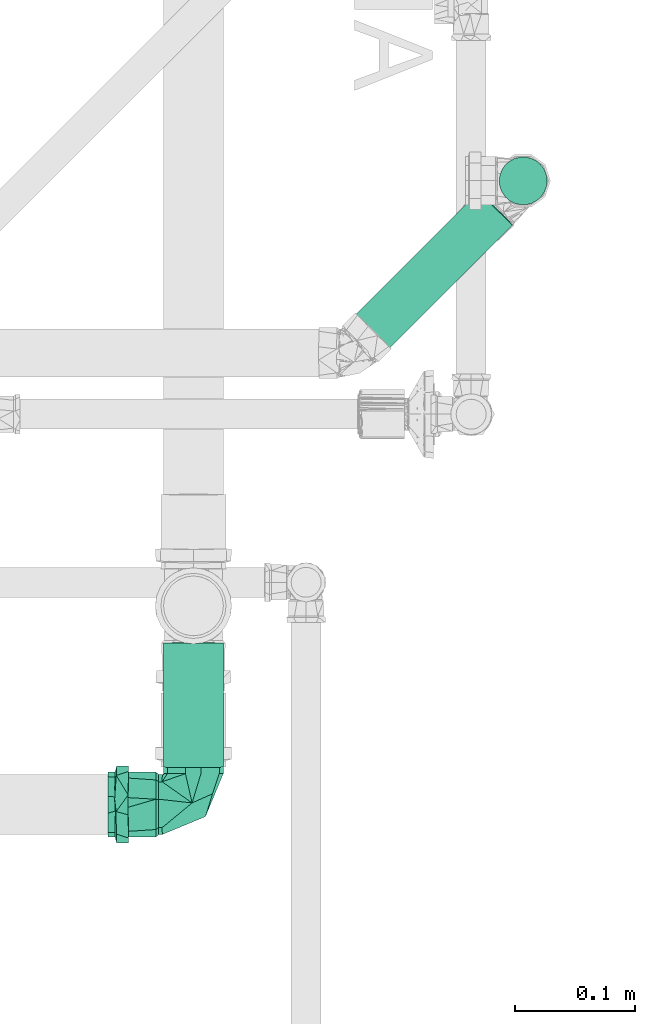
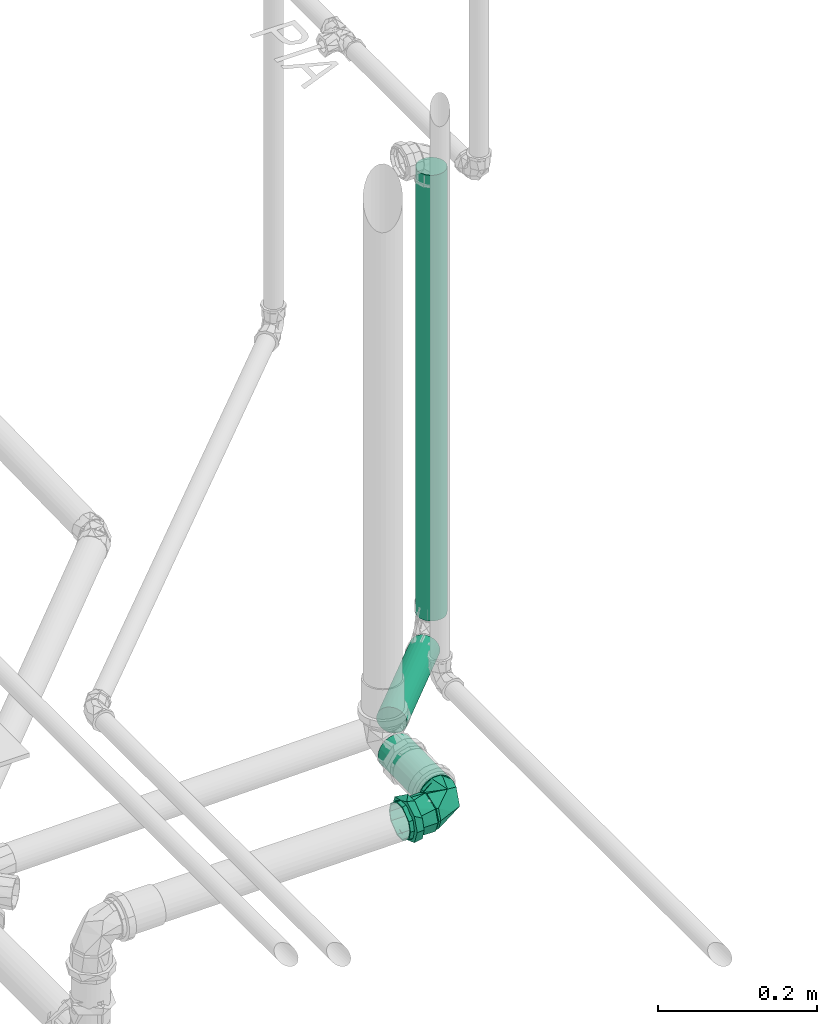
# One storey, part 48 of 589: 3 flow segments, 1 flow fitting.
"""IFC2X3 building model written with IfcOpenShell, lengths in millimetres."""

from ifc_helpers import new_model, entity, si_unit, converted_unit, derived_unit, direction, frame, frame_2d, origin, place, context, subcontext, project, spatial, circle, extrude, faceted_brep, source, transform, mapped, material, type_object, type_shapes, element, save


model = new_model("IFC2X3")

# Units and contexts
model_context = context("Model", 3, precision=0.01, world=origin(), true_north=direction((6.123031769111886e-17, 1.0)))
body_context = subcontext(model_context, "Body", "Model", "MODEL_VIEW")
ifc_project = project(units=[si_unit("LENGTHUNIT", "METRE", prefix="MILLI"), si_unit("AREAUNIT", "SQUARE_METRE"), si_unit("VOLUMEUNIT", "CUBIC_METRE"), converted_unit("PLANEANGLEUNIT", "DEGREE", entity("IfcRatioMeasure", 0.017453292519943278), si_unit("PLANEANGLEUNIT", "RADIAN"), dimensions=[0, 0, 0, 0, 0, 0, 0]), si_unit("MASSUNIT", "GRAM", prefix="KILO"), derived_unit("MASSDENSITYUNIT", [(si_unit("MASSUNIT", "GRAM", prefix="KILO"), 1), (si_unit("LENGTHUNIT", "METRE"), -3)]), derived_unit("IONCONCENTRATIONUNIT", [(si_unit("MASSUNIT", "GRAM", prefix="KILO"), 1), (si_unit("LENGTHUNIT", "METRE"), -3)]), derived_unit("MOMENTOFINERTIAUNIT", [(si_unit("LENGTHUNIT", "METRE"), 4)]), si_unit("TIMEUNIT", "SECOND"), si_unit("FREQUENCYUNIT", "HERTZ"), si_unit("THERMODYNAMICTEMPERATUREUNIT", "DEGREE_CELSIUS"), derived_unit("THERMALTRANSMITTANCEUNIT", [(si_unit("MASSUNIT", "GRAM", prefix="KILO"), 1), (si_unit("THERMODYNAMICTEMPERATUREUNIT", "KELVIN"), -1), (si_unit("TIMEUNIT", "SECOND"), -3)]), derived_unit("THERMALCONDUCTANCEUNIT", [(si_unit("MASSUNIT", "GRAM", prefix="KILO"), 1), (si_unit("THERMODYNAMICTEMPERATUREUNIT", "KELVIN"), -1), (si_unit("TIMEUNIT", "SECOND"), -3), (si_unit("LENGTHUNIT", "METRE"), 1)]), derived_unit("VOLUMETRICFLOWRATEUNIT", [(si_unit("LENGTHUNIT", "METRE"), 3), (si_unit("TIMEUNIT", "SECOND"), -1)]), derived_unit("MASSFLOWRATEUNIT", [(si_unit("MASSUNIT", "GRAM", prefix="KILO"), 1), (si_unit("TIMEUNIT", "SECOND"), -1)]), derived_unit("ROTATIONALFREQUENCYUNIT", [(si_unit("TIMEUNIT", "SECOND"), -1)]), si_unit("ELECTRICCURRENTUNIT", "AMPERE"), si_unit("ELECTRICVOLTAGEUNIT", "VOLT"), si_unit("POWERUNIT", "WATT"), si_unit("FORCEUNIT", "NEWTON", prefix="KILO"), si_unit("ILLUMINANCEUNIT", "LUX"), si_unit("LUMINOUSFLUXUNIT", "LUMEN"), si_unit("LUMINOUSINTENSITYUNIT", "CANDELA"), derived_unit("USERDEFINED", [(si_unit("MASSUNIT", "GRAM", prefix="KILO"), -1), (si_unit("LENGTHUNIT", "METRE"), -2), (si_unit("TIMEUNIT", "SECOND"), 3), (si_unit("LUMINOUSFLUXUNIT", "LUMEN"), 1)]), derived_unit("USERDEFINED", [(si_unit("MASSUNIT", "GRAM", prefix="KILO"), 1), (si_unit("TIMEUNIT", "SECOND"), -3), (si_unit("LENGTHUNIT", "METRE"), 3), (si_unit("ELECTRICCURRENTUNIT", "AMPERE"), -2)]), derived_unit("SOUNDPOWERUNIT", [(si_unit("MASSUNIT", "GRAM", prefix="KILO"), 1), (si_unit("TIMEUNIT", "SECOND"), -3), (si_unit("LENGTHUNIT", "METRE"), 2)]), derived_unit("SOUNDPRESSUREUNIT", [(si_unit("MASSUNIT", "GRAM", prefix="KILO"), 1), (si_unit("LENGTHUNIT", "METRE"), -1), (si_unit("TIMEUNIT", "SECOND"), -2)]), derived_unit("LINEARVELOCITYUNIT", [(si_unit("LENGTHUNIT", "METRE"), 1), (si_unit("TIMEUNIT", "SECOND"), -1)]), si_unit("PRESSUREUNIT", "PASCAL"), derived_unit("USERDEFINED", [(si_unit("MASSUNIT", "GRAM", prefix="KILO"), 1), (si_unit("LENGTHUNIT", "METRE"), -2), (si_unit("TIMEUNIT", "SECOND"), -2)]), derived_unit("LINEARFORCEUNIT", [(si_unit("MASSUNIT", "GRAM", prefix="KILO"), 1), (si_unit("TIMEUNIT", "SECOND"), -2)]), derived_unit("PLANARFORCEUNIT", [(si_unit("MASSUNIT", "GRAM", prefix="KILO"), 1), (si_unit("LENGTHUNIT", "METRE"), -1), (si_unit("TIMEUNIT", "SECOND"), -2)]), derived_unit("SPECIFICHEATCAPACITYUNIT", [(si_unit("THERMODYNAMICTEMPERATUREUNIT", "KELVIN"), -1), (si_unit("LENGTHUNIT", "METRE"), 2), (si_unit("TIMEUNIT", "SECOND"), -2)]), derived_unit("HEATINGVALUEUNIT", [(si_unit("LENGTHUNIT", "METRE"), 2), (si_unit("TIMEUNIT", "SECOND"), -2)]), derived_unit("VAPORPERMEABILITYUNIT", [(si_unit("LENGTHUNIT", "METRE"), -1), (si_unit("TIMEUNIT", "SECOND"), 1)]), derived_unit("DYNAMICVISCOSITYUNIT", [(si_unit("MASSUNIT", "GRAM", prefix="KILO"), 1), (si_unit("TIMEUNIT", "SECOND"), -1), (si_unit("LENGTHUNIT", "METRE"), -1)]), derived_unit("THERMALEXPANSIONCOEFFICIENTUNIT", [(si_unit("THERMODYNAMICTEMPERATUREUNIT", "KELVIN"), -1)]), derived_unit("MODULUSOFELASTICITYUNIT", [(si_unit("MASSUNIT", "GRAM", prefix="KILO"), 1), (si_unit("LENGTHUNIT", "METRE"), -1), (si_unit("TIMEUNIT", "SECOND"), -2)]), derived_unit("ISOTHERMALMOISTURECAPACITYUNIT", [(si_unit("LENGTHUNIT", "METRE"), 3), (si_unit("MASSUNIT", "GRAM", prefix="KILO"), -1)]), derived_unit("MOISTUREDIFFUSIVITYUNIT", [(si_unit("TIMEUNIT", "SECOND"), -1), (si_unit("LENGTHUNIT", "METRE"), 2)])], contexts=[model_context])

# Site, building, storey
site_placement = place(None, origin())
site = spatial("IfcSite", under=ifc_project, at=site_placement, Name="Default", CompositionType="ELEMENT")
building_placement = place(site_placement, origin())
building = spatial("IfcBuilding", under=site, at=building_placement, CompositionType="ELEMENT")
storey_placement = place(building_placement, frame((0.0, 0.0, 100.0)))
storey = spatial("IfcBuildingStorey", under=building, at=storey_placement, Name="TÉRREO", CompositionType="ELEMENT", Elevation=100.0)

# Flow segments
pipe_segment_type = type_object("IfcPipeSegmentType", Name="Tipos de tubos:PVC Esgoto Série Normal", PredefinedType="NOTDEFINED")
flow_segment_1_placement = place(storey_placement, origin())
element("IfcFlowSegment", 1, at=flow_segment_1_placement, inside=storey, type_object=pipe_segment_type, Name="Tipos de tubos:PVC Esgoto Série Normal", ObjectType="Tipos de tubos:PVC Esgoto Série Normal", context=body_context, shape_type="SweptSolid", body=[
    extrude(circle(Radius=20.0, at=frame_2d((-4.786120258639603e-14, 3.289585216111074e-14), x_axis=(1.0, 0.0))), frame((249.21978504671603, -7688.480909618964, -241.2744831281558), z_axis=(0.70690044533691, 0.7070418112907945, 0.019586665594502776), x_axis=(-0.7071774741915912, 0.7070360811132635, 0.0)), (0.0, 0.0, 1.0), 159.64111750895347),
])
flow_segment_2_placement = place(storey_placement, origin())
element("IfcFlowSegment", 2, at=flow_segment_2_placement, inside=storey, type_object=pipe_segment_type, Name="Tipos de tubos:PVC Esgoto Série Normal", ObjectType="Tipos de tubos:PVC Esgoto Série Normal", context=body_context, shape_type="SweptSolid", body=[
    extrude(circle(Radius=20.0, at=frame_2d((6.767919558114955e-14, 0.0), x_axis=(1.0, 0.0))), frame((384.8451114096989, -7552.828460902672, -205.2985583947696)), (0.0, 0.0, 1.0), 683.4985583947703),
])
flow_segment_3_placement = place(storey_placement, origin())
element("IfcFlowSegment", 3, at=flow_segment_3_placement, inside=storey, type_object=pipe_segment_type, Name="Tipos de tubos:PVC Esgoto Série Normal", ObjectType="Tipos de tubos:PVC Esgoto Série Normal", context=body_context, shape_type="SweptSolid", body=[
    extrude(circle(Radius=25.0, at=frame_2d((1.6919798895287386e-14, -2.9608167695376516e-14), x_axis=(1.0, 0.0))), frame((109.67377091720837, -8042.106752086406, -88.3459039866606), z_axis=(0.0, 0.9999500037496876, 0.009999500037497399), x_axis=(1.0, 0.0, 0.0)), (0.0, 0.0, 1.0), 103.65582805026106),
])

# Flow fitting
ifc_material = material(Name="PVC Série Normal")
pipe_fitting_type = type_object("IfcPipeFittingType", Name="PVC Esgoto_Joelho 45_90_Rodrigo MEP:a. Série Normal", PredefinedType="NOTDEFINED", material=ifc_material)
shared_shape = source(origin(), body_context, "Body", "Brep", [
    faceted_brep([(-6.4678766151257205, 25.998047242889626, -24.1481456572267), (6.473075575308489, 25.99675327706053, -24.148145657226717), (21.653234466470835, 25.995235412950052, -12.500000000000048), (25.00259935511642, 25.99490050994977, 0.0), (21.65323446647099, 25.995235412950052, 12.499999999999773), (6.4730755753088, 25.99675327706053, 24.14814565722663), (-6.467876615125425, 25.998047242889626, 24.14814565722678), (-21.648035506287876, 25.999565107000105, 12.500000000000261), (-24.99740039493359, 25.99990001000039, 0.0), (-21.64803550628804, 25.999565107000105, -12.499999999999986), (21.65375441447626, 31.195235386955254, 12.499999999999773), (25.003119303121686, 31.19490048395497, 0.0), (21.6537544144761, 31.195235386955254, -12.500000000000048), (6.473595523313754, 31.196753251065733, -24.148145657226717), (-6.467356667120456, 31.198047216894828, -24.1481456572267), (-21.64751555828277, 31.199565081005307, -12.499999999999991), (-24.99688044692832, 31.19989998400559, 0.0), (-21.64751555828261, 31.199565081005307, 12.500000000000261), (-6.4673566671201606, 31.198047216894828, 24.14814565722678), (6.473595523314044, 31.196753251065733, 24.148145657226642)], [[[0, 1, 2, 3, 4, 5, 6, 7, 8, 9]], [[10, 11, 12, 13, 14, 15, 16, 17, 18, 19]], [[3, 11, 10, 4]], [[4, 10, 19, 5]], [[19, 18, 6, 5]], [[6, 18, 17, 7]], [[7, 17, 16, 8]], [[8, 16, 15, 9]], [[9, 15, 14, 0]], [[14, 13, 1, 0]], [[1, 13, 12, 2]], [[2, 12, 11, 3]]]),
    faceted_brep([(-71.19740038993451, -6.988114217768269, -26.07999730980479), (-71.19740038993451, -6.47047612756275, -24.14814565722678), (-71.19740038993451, 6.4704761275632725, -24.148145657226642), (-71.19740038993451, -23.382685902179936, -13.499999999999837), (-71.19740038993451, 6.988114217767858, -26.0799973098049), (-71.19740038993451, -21.650635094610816, -12.500000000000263), (-71.19740038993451, -25.0, 0.0), (-71.19740038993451, -27.0, 0.0), (-71.19740038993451, -21.650635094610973, 12.499999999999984), (-71.19740038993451, -23.382685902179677, 13.500000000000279), (-71.19740038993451, -6.470476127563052, 24.1481456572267), (-71.19740038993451, -6.98811421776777, 26.079997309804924), (-71.19740038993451, 6.470476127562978, 24.14814565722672), (-71.19740038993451, 6.988114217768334, 26.07999730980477), (-71.19740038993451, 21.650635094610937, 12.500000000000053), (-71.19740038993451, 23.38268590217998, 13.499999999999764), (-71.19740038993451, 27.0, 0.0), (-71.19740038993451, 25.0, 0.0), (-71.19740038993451, 23.382685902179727, -13.500000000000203), (-71.19740038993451, 21.6506350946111, -12.499999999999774), (-31.197400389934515, 21.650635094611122, -12.499999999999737), (-31.197400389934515, 25.0, 0.0), (-31.197400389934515, 6.4704761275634, -24.148145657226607), (-31.197400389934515, -6.470476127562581, -24.148145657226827), (-31.197400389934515, -21.650635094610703, -12.500000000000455), (-31.197400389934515, -25.0, 0.0), (-31.197400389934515, -21.65063509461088, 12.500000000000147), (-31.197400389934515, -6.470476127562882, 24.14814565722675), (-31.197400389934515, 6.470476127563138, 24.148145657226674), (-31.197400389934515, 21.650635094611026, 12.499999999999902), (-31.197400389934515, 27.0, 0.0), (-31.19740038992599, 20.682232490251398, 17.35641838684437), (-31.197400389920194, 4.685536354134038, 26.59033187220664), (-31.19740038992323, -20.686585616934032, 17.35122979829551), (-31.197400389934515, -27.0, 0.0), (-31.197400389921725, -8.000524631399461, 21.970780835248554), (-31.19740038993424, -20.686585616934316, -17.35122979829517), (-31.197400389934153, -4.6922062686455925, -26.589155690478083), (-31.197400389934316, 20.682232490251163, -17.356418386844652), (-31.197400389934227, 7.995013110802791, -21.97278703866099), (-28.997400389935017, -4.338459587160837, -24.62067765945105), (-28.9974003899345, 25.0, 0.0), (-28.99740038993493, 19.154245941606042, -16.065953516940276), (-28.997400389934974, 7.407893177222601, -20.34331558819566), (-28.997400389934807, -19.15021526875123, -16.070757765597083), (-28.9974003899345, -25.0, 0.0), (-28.997400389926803, -19.150215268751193, 16.07075776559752), (-28.997400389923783, -7.402789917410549, 20.34517318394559), (-28.9974003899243, 19.15424594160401, 16.065953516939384), (-28.997400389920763, 4.34463543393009, 24.619588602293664), (-25.997400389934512, 25.0, 0.0), (-25.997400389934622, 19.151286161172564, 16.069481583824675), (-25.997400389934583, 4.341396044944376, 24.62016003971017), (-25.997400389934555, -7.404832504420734, 20.344954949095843), (-25.997400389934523, -19.15106105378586, 16.069749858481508), (-25.997400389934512, -25.0, 0.0), (-25.997400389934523, -19.15106105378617, -16.069749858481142), (-25.99740038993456, -4.341051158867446, -24.62022085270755), (-25.997400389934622, 19.15128616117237, -16.069481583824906), (-25.99740038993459, 7.405117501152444, -20.344851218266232), (21.653234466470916, 25.995235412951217, 12.499999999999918), (25.002599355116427, 25.99490050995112, 0.0), (21.653234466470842, 25.995235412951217, -12.500000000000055), (6.473075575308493, 25.996753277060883, -24.14814565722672), (-6.467876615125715, 25.998047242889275, -24.1481456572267), (-21.64803550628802, 25.999565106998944, -12.499999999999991), (-24.997400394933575, 25.999900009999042, 0.0), (-21.64803550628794, 25.999565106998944, 12.500000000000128), (-6.467876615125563, 25.998047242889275, 24.14814565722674), (6.473075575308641, 25.996753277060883, 24.148145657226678), (-0.8941491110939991, 1.5691884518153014, 23.312558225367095), (-3.4891844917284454, -15.67745088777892, 0.0), (10.063242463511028, -10.064248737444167, 0.0), (16.06770268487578, 9.069040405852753, 15.83627166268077), (-25.290328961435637, 25.29285786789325, 0.0), (15.67779934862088, 3.4876160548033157, 0.0), (16.06770213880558, 9.06904053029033, -15.836272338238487), (-0.9328517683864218, 1.4778109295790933, -23.29853780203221)], [[[0, 1, 2]], [[1, 0, 3]], [[2, 4, 0]], [[3, 5, 1]], [[3, 6, 5]], [[6, 3, 7]], [[8, 6, 7]], [[8, 7, 9]], [[9, 10, 8]], [[9, 11, 10]], [[10, 11, 12]], [[13, 12, 11]], [[13, 14, 12]], [[14, 13, 15]], [[16, 14, 15]], [[17, 14, 16]], [[18, 17, 16]], [[18, 19, 17]], [[19, 18, 4]], [[4, 2, 19]], [[20, 21, 17, 19]], [[22, 20, 19, 2]], [[2, 1, 23, 22]], [[24, 23, 1, 5]], [[25, 24, 5, 6]], [[26, 25, 6, 8]], [[27, 26, 8, 10]], [[10, 12, 28, 27]], [[29, 28, 12, 14]], [[21, 29, 14, 17]], [[16, 15, 30]], [[15, 31, 30]], [[31, 15, 13]], [[31, 13, 32]], [[33, 11, 9]], [[34, 9, 7]], [[11, 33, 35, 32]], [[33, 9, 34]], [[11, 32, 13]], [[7, 3, 34]], [[3, 36, 34]], [[36, 3, 0]], [[36, 0, 37]], [[38, 4, 18]], [[30, 18, 16]], [[4, 38, 39, 37]], [[38, 18, 30]], [[4, 37, 0]], [[28, 29, 21, 20, 22, 23, 24, 25, 26, 27]], [[39, 40, 37]], [[41, 42, 30]], [[30, 42, 38]], [[38, 43, 39]], [[44, 45, 36]], [[38, 42, 43]], [[36, 37, 44]], [[34, 36, 45]], [[40, 39, 43]], [[44, 37, 40]], [[45, 46, 33]], [[33, 34, 45]], [[46, 35, 33]], [[46, 47, 35]], [[47, 32, 35]], [[48, 41, 30]], [[48, 31, 49]], [[31, 48, 30]], [[32, 47, 49]], [[49, 31, 32]], [[41, 48, 50]], [[48, 51, 50]], [[51, 48, 49]], [[51, 49, 52]], [[52, 47, 53]], [[46, 54, 53]], [[46, 45, 54]], [[49, 47, 52]], [[54, 45, 55]], [[47, 46, 53]], [[45, 44, 56]], [[45, 56, 55]], [[56, 44, 57]], [[58, 59, 43]], [[44, 40, 57]], [[40, 59, 57]], [[58, 43, 42]], [[42, 50, 58]], [[50, 42, 41]], [[59, 40, 43]], [[60, 61, 62, 63, 64, 65, 66, 67, 68, 69]], [[52, 70, 51]], [[54, 71, 70]], [[70, 52, 53, 54]], [[72, 73, 70]], [[50, 67, 74]], [[51, 67, 50]], [[54, 55, 71]], [[72, 70, 71]], [[75, 61, 60]], [[69, 70, 73]], [[73, 75, 60]], [[74, 67, 66]], [[73, 60, 69]], [[67, 51, 68]], [[70, 68, 51]], [[73, 72, 75]], [[69, 68, 70]], [[72, 76, 75]], [[71, 55, 56]], [[77, 58, 64]], [[77, 57, 59, 58]], [[77, 71, 56]], [[56, 57, 77]], [[77, 63, 76]], [[58, 50, 65]], [[74, 66, 65]], [[71, 77, 72]], [[65, 64, 58]], [[62, 75, 76]], [[62, 61, 75]], [[72, 77, 76]], [[76, 63, 62]], [[64, 63, 77]], [[65, 50, 74]]]),
    faceted_brep([(-54.19740038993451, 6.9881142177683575, -26.07999730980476), (-54.19740038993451, -6.988114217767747, -26.079997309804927), (-54.19740038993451, -8.282209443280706, -30.909626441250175), (-54.19740038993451, 8.28220944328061, -30.9096264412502), (-54.19740038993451, 23.38268590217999, -13.499999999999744), (-54.19740038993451, -27.712812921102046, -16.0), (-54.19740038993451, -23.38268590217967, -13.500000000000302), (-54.19740038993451, -27.0, 0.0), (-54.19740038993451, -32.0, 0.0), (-54.19740038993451, -23.382685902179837, 13.500000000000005), (-54.19740038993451, -27.712812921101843, 16.0), (-54.19740038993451, -6.988114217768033, 26.07999730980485), (-54.19740038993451, -8.28220944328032, 30.909626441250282), (-54.19740038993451, 6.988114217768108, 26.07999730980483), (-54.19740038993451, 8.282209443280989, 30.909626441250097), (-54.19740038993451, 23.382685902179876, 13.499999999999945), (-54.19740038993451, 27.712812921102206, 16.0), (-54.19740038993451, 32.0, 0.0), (-54.19740038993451, 27.0, 0.0), (-54.19740038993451, 27.712812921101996, -16.0), (-64.19740038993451, 27.0, 0.0), (-65.49740038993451, 27.0, 0.0), (-64.19740038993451, 25.191342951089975, -6.750000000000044), (-64.19740038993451, 23.38268590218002, -13.499999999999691), (-64.19740038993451, 19.284042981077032, -16.644999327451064), (-64.19740038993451, 15.185400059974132, -19.789998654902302), (-64.19740038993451, 11.086757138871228, -22.934997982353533), (-64.19740038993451, 6.988114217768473, -26.07999730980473), (-64.19740038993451, 0.0, -26.079997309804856), (-64.19740038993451, -6.988114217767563, -26.079997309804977), (-64.19740038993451, -11.086757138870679, -22.934997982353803), (-64.19740038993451, -15.185400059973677, -19.789998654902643), (-64.1974003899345, -19.284042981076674, -16.644999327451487), (-64.19740038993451, -23.382685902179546, -13.50000000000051), (-64.19740038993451, -25.191342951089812, -6.750000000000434), (-65.49740038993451, -27.0, 0.0), (-64.19740038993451, -27.0, 0.0), (-64.19740038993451, -25.19134295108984, 6.750000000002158), (-64.19740038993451, -23.382685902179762, 13.500000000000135), (-64.19740038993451, -19.284042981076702, 16.64499932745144), (-64.19740038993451, -15.185400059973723, 19.7899986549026), (-64.19740038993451, -11.086757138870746, 22.934997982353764), (-64.19740038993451, -6.988114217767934, 26.079997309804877), (-64.1974003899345, 0.0, 26.079997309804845), (-64.19740038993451, 6.988114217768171, 26.079997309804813), (-64.19740038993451, 11.086757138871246, 22.93499798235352), (-64.19740038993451, 15.185400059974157, 19.789998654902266), (-64.19740038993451, 19.284042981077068, 16.644999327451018), (-64.19740038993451, 23.382685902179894, 13.499999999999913), (-64.19740038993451, 25.19134295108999, 6.74999999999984), (-64.19740038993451, 32.0, 0.0), (-64.1974003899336, 24.512275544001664, 20.570569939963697), (-64.1974003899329, -5.561133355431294, 31.51307341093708), (-64.1974003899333, -24.51743480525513, 20.56442050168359), (-64.19740038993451, -32.0, 0.0), (-64.19740038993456, -24.51743480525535, -20.564420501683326), (-64.19740038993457, 5.553228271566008, -31.514467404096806), (-64.19740038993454, 24.512275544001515, -20.570569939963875), (-65.49740038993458, -23.84329280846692, -8.675614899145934), (-65.49740038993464, -20.686585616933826, -17.351229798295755), (-65.49740038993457, 23.841116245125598, -8.678209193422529), (-65.49740038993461, 20.6822324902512, -17.356418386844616), (-65.49740038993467, -12.689395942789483, -21.970192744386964), (-65.49740038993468, -4.692206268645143, -26.589155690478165), (-65.49740038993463, 14.338622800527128, -19.664602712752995), (-65.49740038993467, 1.6514034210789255, -24.280971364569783), (-65.49740038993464, 7.995013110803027, -21.97278703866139), (-65.49740038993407, 23.84111624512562, 8.678209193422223), (-65.49740038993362, 20.68223249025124, 17.35641838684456), (-65.49740038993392, -23.843292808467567, 8.675614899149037), (-65.49740038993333, -20.68658561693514, 17.351229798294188), (-65.49740038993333, 12.683884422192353, 21.973375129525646), (-65.49740038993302, 4.685536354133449, 26.590331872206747), (-65.49740038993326, -14.343555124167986, 19.66100531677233), (-65.4974003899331, -1.6574941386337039, 24.280556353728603), (-65.49740038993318, -8.000524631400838, 21.97078083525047)], [[[0, 1, 2]], [[2, 3, 0]], [[4, 0, 3]], [[5, 2, 1]], [[1, 6, 5]], [[6, 7, 5]], [[8, 5, 7]], [[8, 7, 9]], [[10, 8, 9]], [[9, 11, 10]], [[11, 12, 10]], [[13, 12, 11]], [[12, 13, 14]], [[13, 15, 14]], [[16, 14, 15]], [[16, 15, 17]], [[17, 15, 18]], [[18, 4, 19]], [[17, 18, 19]], [[3, 19, 4]], [[4, 18, 20, 21, 22, 23]], [[0, 4, 23, 24, 25, 26, 27]], [[0, 27, 28, 29, 1]], [[6, 1, 29, 30, 31, 32, 33]], [[7, 6, 33, 34, 35, 36]], [[9, 7, 36, 35, 37, 38]], [[11, 9, 38, 39, 40, 41, 42]], [[11, 42, 43, 44, 13]], [[15, 13, 44, 45, 46, 47, 48]], [[18, 15, 48, 49, 21, 20]], [[50, 51, 16]], [[50, 16, 17]], [[16, 51, 14]], [[51, 52, 14]], [[12, 52, 53]], [[10, 53, 54]], [[53, 10, 12]], [[10, 54, 8]], [[52, 12, 14]], [[54, 55, 5]], [[54, 5, 8]], [[5, 55, 2]], [[55, 56, 2]], [[3, 56, 57]], [[19, 57, 50]], [[57, 19, 3]], [[19, 50, 17]], [[56, 3, 2]], [[58, 33, 59]], [[23, 60, 61]], [[32, 31, 59, 33]], [[30, 29, 62, 31]], [[24, 23, 61, 25]], [[29, 28, 63]], [[26, 25, 64]], [[65, 63, 28]], [[31, 62, 59]], [[63, 62, 29]], [[60, 22, 21]], [[34, 58, 35]], [[66, 26, 64]], [[28, 27, 65]], [[27, 66, 65]], [[27, 26, 66]], [[64, 25, 61]], [[34, 33, 58]], [[60, 23, 22]], [[67, 48, 68]], [[38, 69, 70]], [[47, 46, 68, 48]], [[45, 44, 71, 46]], [[39, 38, 70, 40]], [[44, 43, 72]], [[41, 40, 73]], [[74, 72, 43]], [[46, 71, 68]], [[72, 71, 44]], [[69, 37, 35]], [[49, 67, 21]], [[75, 41, 73]], [[43, 42, 74]], [[42, 75, 74]], [[42, 41, 75]], [[73, 40, 70]], [[49, 48, 67]], [[69, 38, 37]], [[54, 35, 58, 59, 55]], [[55, 59, 62, 63]], [[55, 63, 56]], [[57, 61, 60, 21, 50]], [[57, 56, 61]], [[56, 63, 65, 66, 64, 61]], [[50, 21, 67, 68, 51]], [[51, 68, 71, 72]], [[51, 72, 52]], [[53, 70, 69, 35, 54]], [[53, 52, 70]], [[52, 72, 74, 75, 73, 70]]]),
])
type_shapes(pipe_fitting_type, [shared_shape])
flow_fitting_placement = place(storey_placement, frame((109.67377091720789, -8073.302592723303, -88.65786239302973), z_axis=(-0.009999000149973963, -0.009999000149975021, 0.9999000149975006), x_axis=(0.9999500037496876, 0.0, 0.009999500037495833)))
element("IfcFlowFitting", 4, at=flow_fitting_placement, inside=storey, type_object=pipe_fitting_type, material=ifc_material, Name="PVC Esgoto_Joelho 45_90_Rodrigo MEP:a. Série Normal", ObjectType="PVC Esgoto_Joelho 45_90_Rodrigo MEP:a. Série Normal", context=body_context, shape_type="MappedRepresentation", body=[
    mapped(shared_shape, transform((0.0, 0.0, 0.0), scale=1.0)),
])

save(model, "model.ifc")
